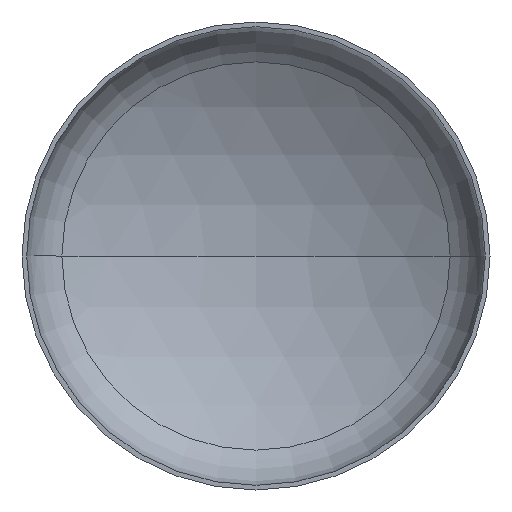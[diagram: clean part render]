
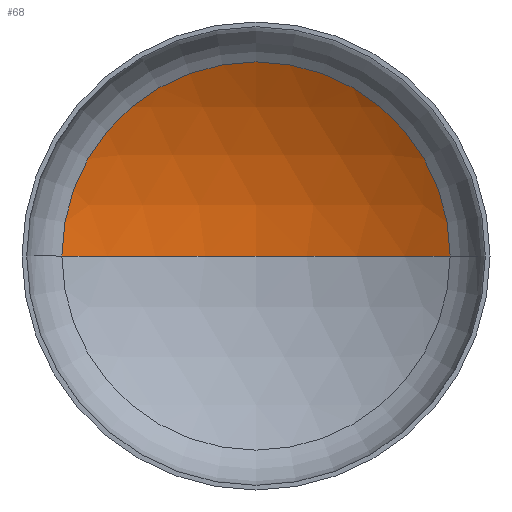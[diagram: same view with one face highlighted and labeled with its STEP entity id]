
A CAD part, front view. The second image highlights one B-rep face of the part: STEP entity #68.
In plain terms, the highlighted spherical face has radius 640 mm.
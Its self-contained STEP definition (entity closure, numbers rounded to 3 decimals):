
#2 = AXIS2_PLACEMENT_3D ( 'NONE', #309, #46, #277 ) ;
#3 = AXIS2_PLACEMENT_3D ( 'NONE', #141, #145, #113 ) ;
#13 = AXIS2_PLACEMENT_3D ( 'NONE', #359, #301, #304 ) ;
#23 = EDGE_LOOP ( 'NONE', ( #99, #90, #31 ) ) ;
#31 = ORIENTED_EDGE ( 'NONE', *, *, #326, .T. ) ;
#46 = DIRECTION ( 'NONE',  ( 0., 0., -1. ) ) ;
#50 = VERTEX_POINT ( 'NONE', #286 ) ;
#66 = AXIS2_PLACEMENT_3D ( 'NONE', #262, #245, #243 ) ;
#68 = ADVANCED_FACE ( 'NONE', ( #226 ), #143, .F. ) ;
#90 = ORIENTED_EDGE ( 'NONE', *, *, #364, .T. ) ;
#99 = ORIENTED_EDGE ( 'NONE', *, *, #345, .F. ) ;
#100 = VERTEX_POINT ( 'NONE', #151 ) ;
#101 = VERTEX_POINT ( 'NONE', #199 ) ;
#113 = DIRECTION ( 'NONE',  ( 1., 0., 0. ) ) ;
#141 = CARTESIAN_POINT ( 'NONE',  ( 0., -415.382, 0. ) ) ;
#143 = SPHERICAL_SURFACE ( 'NONE', #66, 640. ) ;
#145 = DIRECTION ( 'NONE',  ( 0., 0., 1. ) ) ;
#151 = CARTESIAN_POINT ( 'NONE',  ( 0., 224.618, 0. ) ) ;
#170 = CIRCLE ( 'NONE', #3, 640. ) ;
#174 = CIRCLE ( 'NONE', #13, 331.806 ) ;
#199 = CARTESIAN_POINT ( 'NONE',  ( -331.806, 131.889, 0. ) ) ;
#226 = FACE_OUTER_BOUND ( 'NONE', #23, .T. ) ;
#243 = DIRECTION ( 'NONE',  ( -1., 0., 0. ) ) ;
#245 = DIRECTION ( 'NONE',  ( 0., 0., -1. ) ) ;
#262 = CARTESIAN_POINT ( 'NONE',  ( 0., -415.382, 0. ) ) ;
#277 = DIRECTION ( 'NONE',  ( -1., 0., 0. ) ) ;
#286 = CARTESIAN_POINT ( 'NONE',  ( 331.806, 131.889, 0. ) ) ;
#287 = CIRCLE ( 'NONE', #2, 640. ) ;
#301 = DIRECTION ( 'NONE',  ( 0., -1., 0. ) ) ;
#304 = DIRECTION ( 'NONE',  ( 1., 0., 0. ) ) ;
#309 = CARTESIAN_POINT ( 'NONE',  ( 0., -415.382, 0. ) ) ;
#326 = EDGE_CURVE ( 'NONE', #50, #101, #174, .T. ) ;
#345 = EDGE_CURVE ( 'NONE', #100, #101, #170, .T. ) ;
#359 = CARTESIAN_POINT ( 'NONE',  ( 0., 131.889, 0. ) ) ;
#364 = EDGE_CURVE ( 'NONE', #100, #50, #287, .T. ) ;
